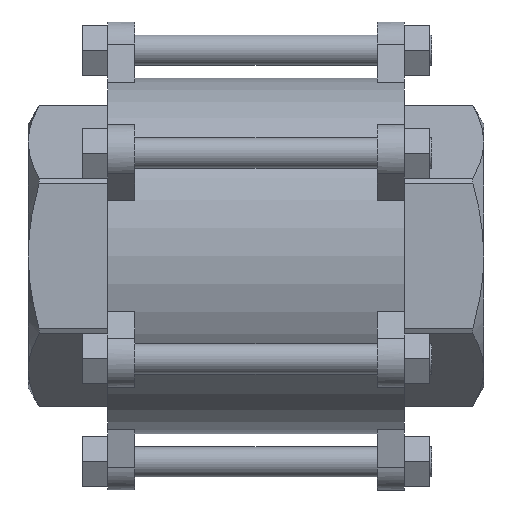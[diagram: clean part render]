
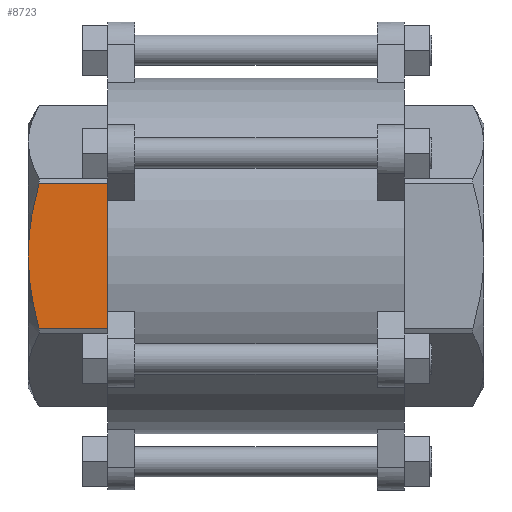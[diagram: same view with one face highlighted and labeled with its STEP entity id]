
A CAD part, front view. The second image highlights one B-rep face of the part: STEP entity #8723.
In plain terms, the highlighted planar face has unit normal (0, -1, 0).
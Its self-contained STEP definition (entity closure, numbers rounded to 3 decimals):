
#62 = CARTESIAN_POINT ( 'NONE',  ( -71., -63., -34.857 ) ) ;
#341 = PLANE ( 'NONE',  #6826 ) ;
#457 = CARTESIAN_POINT ( 'NONE',  ( -109., -63., -2.942 ) ) ;
#616 = EDGE_CURVE ( 'NONE', #11080, #3495, #9419, .T. ) ;
#680 = ORIENTED_EDGE ( 'NONE', *, *, #2583, .T. ) ;
#1243 = DIRECTION ( 'NONE',  ( 0., 0., -1. ) ) ;
#1303 = LINE ( 'NONE', #5149, #6047 ) ;
#1405 = CARTESIAN_POINT ( 'NONE',  ( -108.413, -63., -11.724 ) ) ;
#2301 = CARTESIAN_POINT ( 'NONE',  ( -107.165, -63., -20.457 ) ) ;
#2581 = CARTESIAN_POINT ( 'NONE',  ( -105.381, -63., 29.215 ) ) ;
#2583 = EDGE_CURVE ( 'NONE', #3200, #9764, #6127, .T. ) ;
#2626 = CARTESIAN_POINT ( 'NONE',  ( -107.823, -63., 16.22 ) ) ;
#3200 = VERTEX_POINT ( 'NONE', #62 ) ;
#3201 = CARTESIAN_POINT ( 'NONE',  ( -105.647, -63., -27.698 ) ) ;
#3495 = VERTEX_POINT ( 'NONE', #11093 ) ;
#3505 = VERTEX_POINT ( 'NONE', #4040 ) ;
#3514 = CARTESIAN_POINT ( 'NONE',  ( -108.375, -63., 11.817 ) ) ;
#3904 = CARTESIAN_POINT ( 'NONE',  ( 169.416, -63., -36.373 ) ) ;
#4040 = CARTESIAN_POINT ( 'NONE',  ( -103.804, -63., -34.857 ) ) ;
#4093 = CARTESIAN_POINT ( 'NONE',  ( -104.581, -63., -32.01 ) ) ;
#4153 = ORIENTED_EDGE ( 'NONE', *, *, #9262, .T. ) ;
#4413 = CARTESIAN_POINT ( 'NONE',  ( -108.88, -63., 5.895 ) ) ;
#4477 = EDGE_LOOP ( 'NONE', ( #6875, #6500, #4153, #11284, #680 ) ) ;
#4999 = CARTESIAN_POINT ( 'NONE',  ( -103.804, -63., -34.857 ) ) ;
#5082 = VECTOR ( 'NONE', #5342, 1000. ) ;
#5149 = CARTESIAN_POINT ( 'NONE',  ( -68.765, -63., -34.857 ) ) ;
#5324 = CARTESIAN_POINT ( 'NONE',  ( -109., -63., 0. ) ) ;
#5342 = DIRECTION ( 'NONE',  ( -1., 0., 0. ) ) ;
#5958 = EDGE_CURVE ( 'NONE', #9764, #11080, #9784, .T. ) ;
#6047 = VECTOR ( 'NONE', #7775, 1000. ) ;
#6127 = LINE ( 'NONE', #6967, #10525 ) ;
#6500 = ORIENTED_EDGE ( 'NONE', *, *, #616, .T. ) ;
#6573 = DIRECTION ( 'NONE',  ( 0., -1., 0. ) ) ;
#6635 = CARTESIAN_POINT ( 'NONE',  ( -103.804, -63., 34.857 ) ) ;
#6732 = CARTESIAN_POINT ( 'NONE',  ( -108.88, -63., -5.875 ) ) ;
#6826 = AXIS2_PLACEMENT_3D ( 'NONE', #3904, #6573, #1243 ) ;
#6875 = ORIENTED_EDGE ( 'NONE', *, *, #5958, .T. ) ;
#6967 = CARTESIAN_POINT ( 'NONE',  ( -71., -63., -36.373 ) ) ;
#7067 = CARTESIAN_POINT ( 'NONE',  ( -106.687, -63., 23.499 ) ) ;
#7622 = CARTESIAN_POINT ( 'NONE',  ( -108.066, -63., -14.64 ) ) ;
#7775 = DIRECTION ( 'NONE',  ( 1., 0., 0. ) ) ;
#7838 = DIRECTION ( 'NONE',  ( 0., 0., 1. ) ) ;
#8476 = CARTESIAN_POINT ( 'NONE',  ( -109., -63., 0. ) ) ;
#8505 = CARTESIAN_POINT ( 'NONE',  ( -106.611, -63., -23.357 ) ) ;
#8547 = FACE_OUTER_BOUND ( 'NONE', #4477, .T. ) ;
#8723 = ADVANCED_FACE ( 'NONE', ( #8547 ), #341, .T. ) ;
#8823 = CARTESIAN_POINT ( 'NONE',  ( -108.025, -63., 14.757 ) ) ;
#9262 = EDGE_CURVE ( 'NONE', #3495, #3505, #10261, .T. ) ;
#9395 = CARTESIAN_POINT ( 'NONE',  ( -105.304, -63., -29.141 ) ) ;
#9419 = B_SPLINE_CURVE_WITH_KNOTS ( 'NONE', 3,
 ( #9667, #2581, #7067, #2626, #8823, #3514, #9709, #4413, #10574, #5324 ),
 .UNSPECIFIED., .F., .F.,
 ( 4, 2, 2, 2, 4 ),
 ( 0.028, 0.046, 0.05, 0.055, 0.063 ),
 .UNSPECIFIED. ) ;
#9667 = CARTESIAN_POINT ( 'NONE',  ( -103.804, -63., 34.857 ) ) ;
#9709 = CARTESIAN_POINT ( 'NONE',  ( -108.523, -63., 10.336 ) ) ;
#9764 = VERTEX_POINT ( 'NONE', #10771 ) ;
#9784 = LINE ( 'NONE', #10634, #5082 ) ;
#10261 = B_SPLINE_CURVE_WITH_KNOTS ( 'NONE', 3,
 ( #8476, #457, #6732, #1405, #7622, #2301, #8505, #3201, #9395, #4093, #10275, #4999 ),
 .UNSPECIFIED., .F., .F.,
 ( 4, 2, 2, 2, 2, 4 ),
 ( 0.063, 0.072, 0.081, 0.09, 0.094, 0.099 ),
 .UNSPECIFIED. ) ;
#10275 = CARTESIAN_POINT ( 'NONE',  ( -104.201, -63., -33.436 ) ) ;
#10525 = VECTOR ( 'NONE', #7838, 1000. ) ;
#10574 = CARTESIAN_POINT ( 'NONE',  ( -109., -63., 2.943 ) ) ;
#10634 = CARTESIAN_POINT ( 'NONE',  ( -68.765, -63., 34.857 ) ) ;
#10771 = CARTESIAN_POINT ( 'NONE',  ( -71., -63., 34.857 ) ) ;
#10827 = EDGE_CURVE ( 'NONE', #3505, #3200, #1303, .T. ) ;
#11080 = VERTEX_POINT ( 'NONE', #6635 ) ;
#11093 = CARTESIAN_POINT ( 'NONE',  ( -109., -63., 0. ) ) ;
#11284 = ORIENTED_EDGE ( 'NONE', *, *, #10827, .T. ) ;
